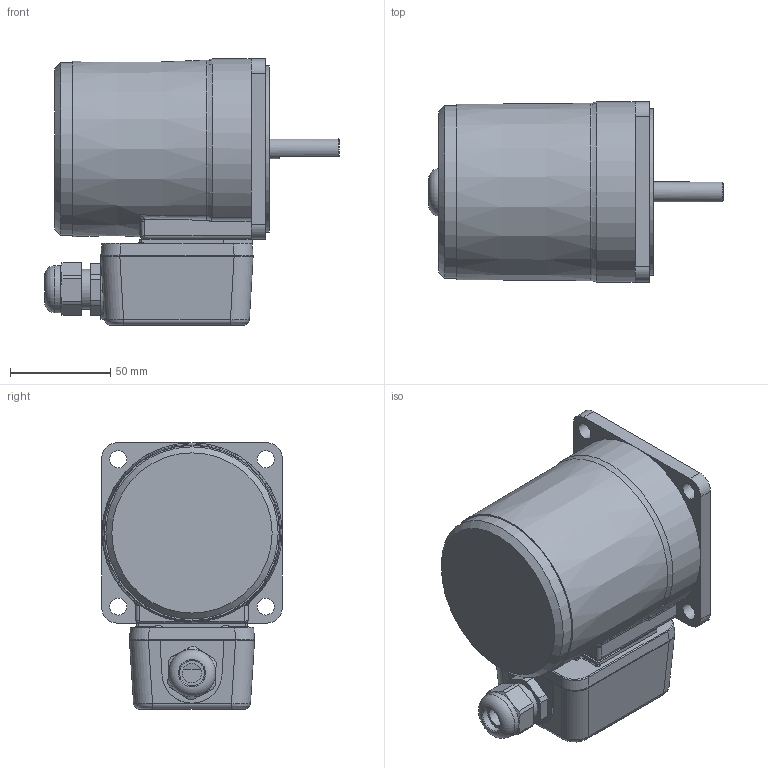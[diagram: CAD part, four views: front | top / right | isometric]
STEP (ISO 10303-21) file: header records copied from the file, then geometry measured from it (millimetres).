
FILE_DESCRIPTION(/* description */ (''),/* implementation_level */ '2;1');
FILE_NAME(/* name */ 'E:\도면작업\2016\0704) 미주향 SG 도면\3D MOTOR\TERMINAL BOX TYPE\INDUCTION TERMINAL BOX\SG9I40D_-T.stp',/* time_stamp */ '2017-01-23T18:26:14+09:00',/* author */ ('jy-jung'),/* organization */ (''),/* preprocessor_version */ 'ST-DEVELOPER v15.6',/* originating_system */ 'Autodesk Inventor 2015',/* authorisation */ '');
FILE_SCHEMA (('AUTOMOTIVE_DESIGN { 1 0 10303 214 3 1 1 }'));
Length unit declared in the file: millimetre
Products named in the file (1): 부품4
Bounding box: 147 x 90 x 133 mm (x, y, z)
Volume: 852431.7 mm3; surface area: 71061.4 mm2
Topology: 1 solids, 9 shells, 366 faces, 915 edges, 581 vertices
Faces by surface type: plane 188, cylinder 105, bspline 50, torus 18, cone 5
Full cylindrical faces by diameter (mm): 2.55 x2, 5.6 x4, 6.3 x4, 8.5 x4, 10 x1, 12.5 x1, 15 x1, 20 x2, 21 x1, 23.6 x1, 40 x1, 83 x1, 86 x1
Entity records: 12679 total; most frequent: CARTESIAN_POINT 4047, ORIENTED_EDGE 1712, DIRECTION 1628, EDGE_CURVE 856, AXIS2_PLACEMENT_3D 583, VERTEX_POINT 567, LINE 462, VECTOR 462
